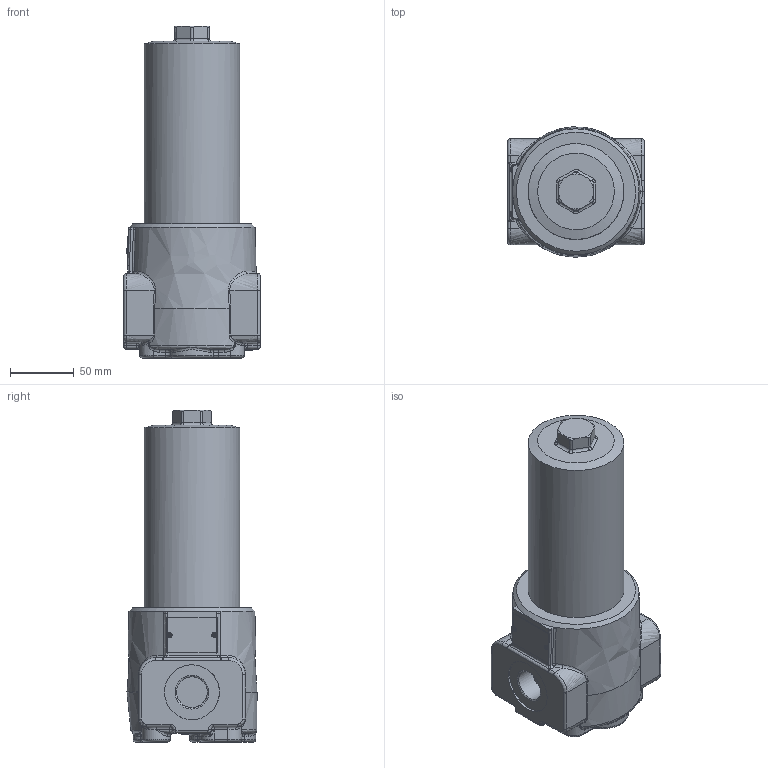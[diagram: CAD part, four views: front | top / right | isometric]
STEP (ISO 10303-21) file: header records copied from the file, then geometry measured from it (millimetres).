
FILE_DESCRIPTION((''),'2;1');
FILE_NAME('U:\export\HD152_166.stp','2013-04-17T16:44:07',('User'),( 'SDRC'),'I-DEAS Master Series 9','UNIX','Yes');
FILE_SCHEMA(('CONFIG_CONTROL_DESIGN', 'GEOMETRIC_VALIDATION_PROPERTIES_MIM','SHAPE_APPEARANCE_LAYER_MIM'));
Length unit declared in the file: millimetre
Bounding box: 107 x 101.84 x 260 mm (x, y, z)
Volume: 1513515.7 mm3; surface area: 92599.9 mm2
Topology: 1 solids, 1 shells, 371 faces, 885 edges, 532 vertices
Faces by surface type: bspline 371
Entity records: 14429 total; most frequent: CARTESIAN_POINT 9519, ORIENTED_EDGE 1708, EDGE_CURVE 854, VERTEX_POINT 505, EDGE_LOOP 391, B_SPLINE_CURVE_WITH_KNOTS 380, FACE_OUTER_BOUND 371, ADVANCED_FACE 371
